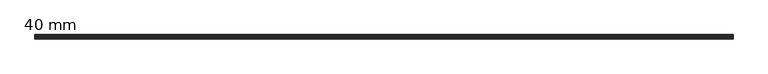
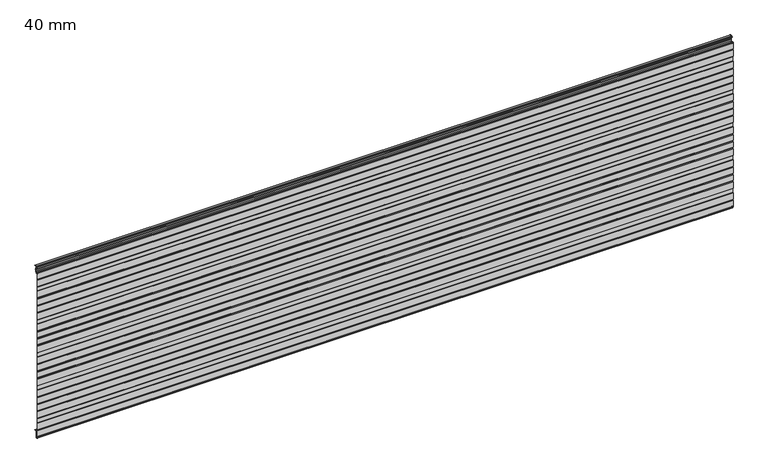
"""IFC4 building model written with IfcOpenShell, lengths in millimetres: plate geometry, HIANSA PANEL - H20.F02.002-PANELES DE FACHADA HORIZONTAL - PANEL PERFILADO - Panel de Muro Cortina : 40 mm."""

from ifc_helpers import new_model, si_unit, point, frame, frame_2d, origin, place, context, project, spatial, polyline, circle_curve, trimmed, segment, composite_curve, outline, extrude, source, transform, mapped, element, save


def plate_40_mm_7dbaa8e2(model_context):
    return source(origin(), model_context, "Body", "SweptSolid", [
        extrude(outline(polyline([(-23.7836621, 1123.0800953), (-23.012002, 1123.5800953), (-13.6987386, 1123.5800953), (-12.8994266, 1123.0800953), (-23.7836621, 1123.0800953)])), frame((-2200.0, 0.0, 0.0), z_axis=(1.0, 0.0, 0.0), x_axis=(0.0, 1.0, 0.0)), (0.0, 0.0, 1.0), 4400.0),
        extrude(outline(polyline([(-23.8274011, 25.6210465), (-12.9205789, 25.6210465), (-13.7002592, 25.1210465), (-23.0111357, 25.1210465), (-23.8274011, 25.6210465)])), frame((-2200.0, 0.0, 0.0), z_axis=(1.0, 0.0, 0.0), x_axis=(0.0, 1.0, 0.0)), (0.0, 0.0, 1.0), 4400.0),
        extrude(outline(composite_curve([segment(trimmed(circle_curve(frame_2d((-26.3367084, 23.0802198)), 2.54), [point((-28.8767084, 23.0802198))], [point((-26.3367084, 25.6202198))], False, "CARTESIAN"), True, "CONTINUOUS"), segment(polyline([(-26.3367084, 25.6202198), (-23.8260515, 25.6202198), (-23.0095828, 25.1200953), (-26.336632, 25.1202198)]), True, "CONTINUOUS"), segment(trimmed(circle_curve(frame_2d((-26.3367084, 23.0802198)), 2.04), [point((-26.336632, 25.1202198))], [point((-28.3767084, 23.0802198))], True, "CARTESIAN"), True, "CONTINUOUS"), segment(polyline([(-28.3767084, 23.0802198), (-28.3767084, -18.7009512)]), True, "CONTINUOUS"), segment(trimmed(circle_curve(frame_2d((-29.3767084, -18.7009512)), 1.0), [point((-28.3767084, -18.7009512))], [point((-29.3767084, -19.7009512))], False, "CARTESIAN"), True, "CONTINUOUS"), segment(polyline([(-29.3767084, -19.7009512), (-33.1267084, -19.7009512)]), True, "CONTINUOUS"), segment(trimmed(circle_curve(frame_2d((-33.1267084, -18.7009512)), 1.0), [point((-33.1267084, -19.7009512))], [point((-34.1267084, -18.7009512))], False, "CARTESIAN"), True, "CONTINUOUS"), segment(polyline([(-34.1267084, -18.7009512), (-34.1267084, -10.5354413)]), True, "CONTINUOUS"), segment(trimmed(circle_curve(frame_2d((-35.1267084, -10.5354413)), 1.0), [point((-34.1267084, -10.5354413))], [point((-35.1267084, -9.5354413))], True, "CARTESIAN"), True, "CONTINUOUS"), segment(polyline([(-35.1267084, -9.5354413), (-37.5159365, -9.5354413)]), True, "CONTINUOUS"), segment(trimmed(circle_curve(frame_2d((-37.5159365, -7.6351946)), 1.9002467), [point((-37.5159365, -9.5354413))], [point((-39.3594466, -8.0960721))], False, "CARTESIAN"), True, "CONTINUOUS"), segment(polyline([(-39.3594466, -8.0960721), (-39.9990488, -5.5376633), (-39.9990488, 33.6845589), (-38.9990488, 37.6845589), (-39.9990488, 41.6845589), (-39.9990488, 84.9067811), (-38.9990488, 87.9067811), (-38.9990488, 113.0187811), (-39.9990488, 116.0187811), (-39.9990488, 159.2410033), (-38.9990488, 163.2410033), (-39.9990488, 167.2410033), (-39.9990488, 206.4632255), (-38.9990488, 210.4632255), (-39.9990488, 214.4632255), (-39.9990488, 253.6854477), (-38.9990488, 257.6854477), (-39.9990488, 261.6854477), (-39.9990488, 304.9076699), (-38.9990488, 307.9076699), (-38.9990488, 333.0196699), (-39.9990488, 336.0196699), (-39.9990488, 379.2418921), (-38.9990488, 383.2418921), (-39.9990488, 387.2418921), (-39.9990488, 426.4641143), (-38.9990488, 430.4641143), (-39.9990488, 434.4641143), (-39.9990488, 473.6863365), (-38.9990488, 477.6863365), (-39.9990488, 481.6863365), (-39.9990488, 524.9085587), (-38.9990488, 527.9085587), (-38.9990488, 553.0205587), (-39.9990488, 556.0205587), (-39.9990488, 599.2427809), (-38.9990488, 603.2427809), (-39.9990488, 607.2427809), (-39.9990488, 646.4650031), (-38.9990488, 650.4650031), (-39.9990488, 654.4650031), (-39.9990488, 693.6872253), (-38.9990488, 697.6872253), (-39.9990488, 701.6872253), (-39.9990488, 744.9094475), (-38.9990488, 747.9094475), (-38.9990488, 773.0214475), (-39.9990488, 776.0214475), (-39.9990488, 819.2436697), (-38.9990488, 823.2436697), (-39.9990488, 827.2436697), (-39.9990488, 866.4658919), (-38.9990488, 870.4658919), (-39.9990488, 874.4658919), (-39.9990488, 913.6881141), (-38.9990488, 917.6881141), (-39.9990488, 921.6881141), (-39.9990488, 964.9103363), (-38.9990488, 967.9103363), (-38.9990488, 993.0223363), (-39.9990488, 996.0223363), (-39.9990488, 1039.2445585), (-38.9990488, 1043.2445585), (-39.9990488, 1047.2445585), (-39.9990488, 1086.4667807), (-39.3593999, 1089.0253764)]), True, "CONTINUOUS"), segment(trimmed(circle_curve(frame_2d((-37.5161291, 1088.5645587)), 1.9), [point((-39.3593999, 1089.0253764))], [point((-37.5161291, 1090.4645587))], False, "CARTESIAN"), True, "CONTINUOUS"), segment(polyline([(-37.5161291, 1090.4645587), (-35.3767084, 1090.4645587)]), True, "CONTINUOUS"), segment(trimmed(circle_curve(frame_2d((-35.3767084, 1089.4645587)), 1.0), [point((-35.3767084, 1090.4645587))], [point((-34.3767084, 1089.4645587))], False, "CARTESIAN"), True, "CONTINUOUS"), segment(polyline([(-34.3767084, 1089.4645587), (-34.3767084, 1080.7990488)]), True, "CONTINUOUS"), segment(trimmed(circle_curve(frame_2d((-33.3767084, 1080.7990488)), 1.0), [point((-34.3767084, 1080.7990488))], [point((-33.3767084, 1079.7990488))], True, "CARTESIAN"), True, "CONTINUOUS"), segment(polyline([(-33.3767084, 1079.7990488), (-29.1267084, 1079.7990488)]), True, "CONTINUOUS"), segment(trimmed(circle_curve(frame_2d((-29.1267084, 1080.7990488)), 1.0), [point((-29.1267084, 1079.7990488))], [point((-28.1267084, 1080.7990488))], True, "CARTESIAN"), True, "CONTINUOUS"), segment(polyline([(-28.1267084, 1080.7990488), (-28.1267084, 1082.4003519)]), True, "CONTINUOUS"), segment(trimmed(circle_curve(frame_2d((-26.1267084, 1082.4003519)), 2.0), [point((-28.1267084, 1082.4003519))], [point((-27.2738613, 1084.038656))], False, "CARTESIAN"), True, "CONTINUOUS"), segment(polyline([(-27.2738613, 1084.038656), (-21.2163437, 1088.2801754)]), True, "CONTINUOUS"), segment(trimmed(circle_curve(frame_2d((-22.0767084, 1089.5089035)), 1.5), [point((-21.2163437, 1088.2801754))], [point((-20.5767084, 1089.5089035))], True, "CARTESIAN"), True, "CONTINUOUS"), segment(polyline([(-20.5767084, 1089.5089035), (-20.5767084, 1098.7402031), (-19.6767084, 1100.2990488), (-20.5767084, 1101.8578945), (-20.5767084, 1111.0891941)]), True, "CONTINUOUS"), segment(trimmed(circle_curve(frame_2d((-22.0767084, 1111.0891941)), 1.5), [point((-20.5767084, 1111.0891941))], [point((-21.2163437, 1112.3179221))], True, "CARTESIAN"), True, "CONTINUOUS"), segment(polyline([(-21.2163437, 1112.3179221), (-27.2738613, 1116.5594416)]), True, "CONTINUOUS"), segment(trimmed(circle_curve(frame_2d((-26.1267084, 1118.1977457)), 2.0), [point((-27.2738613, 1116.5594416))], [point((-28.1267084, 1118.1977457))], False, "CARTESIAN"), True, "CONTINUOUS"), segment(polyline([(-28.1267084, 1118.1977457), (-28.1267084, 1121.5800953)]), True, "CONTINUOUS"), segment(trimmed(circle_curve(frame_2d((-26.1267084, 1121.5800953)), 2.0), [point((-28.1267084, 1121.5800953))], [point((-26.1267084, 1123.5800953))], False, "CARTESIAN"), True, "CONTINUOUS"), segment(polyline([(-26.1267084, 1123.5800953), (-23.0095828, 1123.5800953), (-23.7812429, 1123.0800953), (-26.1267084, 1123.0800953)]), True, "CONTINUOUS"), segment(trimmed(circle_curve(frame_2d((-26.1267084, 1121.5800953)), 1.5), [point((-26.1267084, 1123.0800953))], [point((-27.6267084, 1121.5800953))], True, "CARTESIAN"), True, "CONTINUOUS"), segment(polyline([(-27.6267084, 1121.5800953), (-27.6267084, 1118.1977457)]), True, "CONTINUOUS"), segment(trimmed(circle_curve(frame_2d((-26.1267084, 1118.1977457)), 1.5), [point((-27.6267084, 1118.1977457))], [point((-26.987073, 1116.9690176))], True, "CARTESIAN"), True, "CONTINUOUS"), segment(polyline([(-26.987073, 1116.9690176), (-20.9295555, 1112.7274982)]), True, "CONTINUOUS"), segment(trimmed(circle_curve(frame_2d((-22.0767084, 1111.0891941)), 2.0), [point((-20.9295555, 1112.7274982))], [point((-20.0767084, 1111.0891941))], False, "CARTESIAN"), True, "CONTINUOUS"), segment(polyline([(-20.0767084, 1111.0891941), (-20.0767084, 1101.9918691), (-19.3880333, 1100.7990488)]), True, "CONTINUOUS"), segment(trimmed(circle_curve(frame_2d((-20.2540587, 1100.2990488)), 1.0), [point((-19.3880333, 1100.7990488))], [point((-19.3880333, 1099.7990488))], False, "CARTESIAN"), True, "CONTINUOUS"), segment(polyline([(-19.3880333, 1099.7990488), (-20.0767084, 1098.6062285), (-20.0767084, 1089.5089035)]), True, "CONTINUOUS"), segment(trimmed(circle_curve(frame_2d((-22.0767084, 1089.5089035)), 2.0), [point((-20.0767084, 1089.5089035))], [point((-20.9295555, 1087.8705994))], False, "CARTESIAN"), True, "CONTINUOUS"), segment(polyline([(-20.9295555, 1087.8705994), (-26.987073, 1083.62908)]), True, "CONTINUOUS"), segment(trimmed(circle_curve(frame_2d((-26.1267084, 1082.4003519)), 1.5), [point((-26.987073, 1083.62908))], [point((-27.6267084, 1082.4003519))], True, "CARTESIAN"), True, "CONTINUOUS"), segment(polyline([(-27.6267084, 1082.4003519), (-27.6267084, 1080.7990488)]), True, "CONTINUOUS"), segment(trimmed(circle_curve(frame_2d((-29.1267084, 1080.7990488)), 1.5), [point((-27.6267084, 1080.7990488))], [point((-29.1267084, 1079.2990488))], False, "CARTESIAN"), True, "CONTINUOUS"), segment(polyline([(-29.1267084, 1079.2990488), (-33.3767084, 1079.2990488)]), True, "CONTINUOUS"), segment(trimmed(circle_curve(frame_2d((-33.3767084, 1080.7990488)), 1.5), [point((-33.3767084, 1079.2990488))], [point((-34.8767084, 1080.7990488))], False, "CARTESIAN"), True, "CONTINUOUS"), segment(polyline([(-34.8767084, 1080.7990488), (-34.8767084, 1089.9645587), (-37.5161291, 1089.9645587)]), True, "CONTINUOUS"), segment(trimmed(circle_curve(frame_2d((-37.5161291, 1088.5645587)), 1.4), [point((-37.5161291, 1089.9645587))], [point((-38.8743286, 1088.9041086))], True, "CARTESIAN"), True, "CONTINUOUS"), segment(polyline([(-38.8743286, 1088.9041086), (-39.4990488, 1086.4052279), (-39.4990488, 1047.3061113), (-38.4836606, 1043.2445585), (-39.4990488, 1039.1830057), (-39.4990488, 996.1034751), (-38.4990488, 993.1034751), (-38.4990488, 967.8291975), (-39.4990488, 964.8291975), (-39.4990488, 921.7496669), (-38.4836606, 917.6881141), (-39.4990488, 913.6265613), (-39.4990488, 874.5274447), (-38.4836606, 870.4658919), (-39.4990488, 866.4043391), (-39.4990488, 827.3052225), (-38.4836606, 823.2436697), (-39.4990488, 819.1821169), (-39.4990488, 776.1025863), (-38.4990488, 773.1025863), (-38.4990488, 747.8283087), (-39.4990488, 744.8283087), (-39.4990488, 701.7487781), (-38.4836606, 697.6872253), (-39.4990488, 693.6256725), (-39.4990488, 654.5265559), (-38.4836606, 650.4650031), (-39.4990488, 646.4034503), (-39.4990488, 607.3043337), (-38.4836606, 603.2427809), (-39.4990488, 599.1812281), (-39.4990488, 556.1016975), (-38.4990488, 553.1016975), (-38.4990488, 527.8274199), (-39.4990488, 524.8274199), (-39.4990488, 481.7478893), (-38.4836606, 477.6863365), (-39.4990488, 473.6247837), (-39.4990488, 434.5256671), (-38.4836606, 430.4641143), (-39.4990488, 426.4025615), (-39.4990488, 387.3034449), (-38.4836606, 383.2418921), (-39.4990488, 379.1803393), (-39.4990488, 336.1008087), (-38.4990488, 333.1008087), (-38.4990488, 307.8265311), (-39.4990488, 304.8265311), (-39.4990488, 261.7470005), (-38.4836606, 257.6854477), (-39.4990488, 253.6238949), (-39.4990488, 214.5247783), (-38.4836606, 210.4632255), (-39.4990488, 206.4016727), (-39.4990488, 167.3025561), (-38.4836606, 163.2410033), (-39.4990488, 159.1794505), (-39.4990488, 116.0999199), (-38.4990488, 113.0999199), (-38.4990488, 87.8256423), (-39.4990488, 84.8256423), (-39.4990488, 41.7461117), (-38.4836606, 37.6845589), (-39.4990488, 33.6230061), (-39.4990488, -5.4761105), (-38.8741312, -7.9757808)]), True, "CONTINUOUS"), segment(trimmed(circle_curve(frame_2d((-37.5169431, -7.6364838)), 1.3989577), [point((-38.8741312, -7.9757808))], [point((-37.5169431, -9.0354415))], True, "CARTESIAN"), True, "CONTINUOUS"), segment(polyline([(-37.5169431, -9.0354415), (-35.1267084, -9.0354413)]), True, "CONTINUOUS"), segment(trimmed(circle_curve(frame_2d((-35.1267084, -10.5354413)), 1.5), [point((-35.1267084, -9.0354413))], [point((-33.6267084, -10.5354413))], False, "CARTESIAN"), True, "CONTINUOUS"), segment(polyline([(-33.6267084, -10.5354413), (-33.6267084, -19.2009512), (-28.8767084, -19.2009512), (-28.8767084, 23.0802198)]), True, "CONTINUOUS")], self_intersect=False)), frame((-2200.0, 0.0, 0.0), z_axis=(1.0, 0.0, 0.0), x_axis=(0.0, 1.0, 0.0)), (0.0, 0.0, 1.0), 4400.0),
    ])


if __name__ == "__main__":
    model = new_model("IFC4")
    model_context = context("Model", 3, world=origin())
    ifc_project = project(units=[si_unit("LENGTHUNIT", "METRE", prefix="MILLI")], contexts=[model_context])
    site = spatial("IfcSite", under=ifc_project)
    building = spatial("IfcBuilding", under=site)
    placement = place(None, origin())
    plate_40_mm_shape = plate_40_mm_7dbaa8e2(model_context)
    element("IfcPlate", 1, ObjectType="HIANSA PANEL - H20.F02.002-PANELES DE FACHADA HORIZONTAL - PANEL PERFILADO - Panel de Muro Cortina : 40 mm", at=placement, inside=building, context=model_context, shape_type="MappedRepresentation", body=[
        mapped(plate_40_mm_shape, transform((0.0, 0.0, 0.0), x_axis=(1.0, 0.0, 0.0), y_axis=(0.0, 1.0, 0.0), z_axis=(0.0, 0.0, 1.0))),
    ])
    save(model, "model.ifc")
